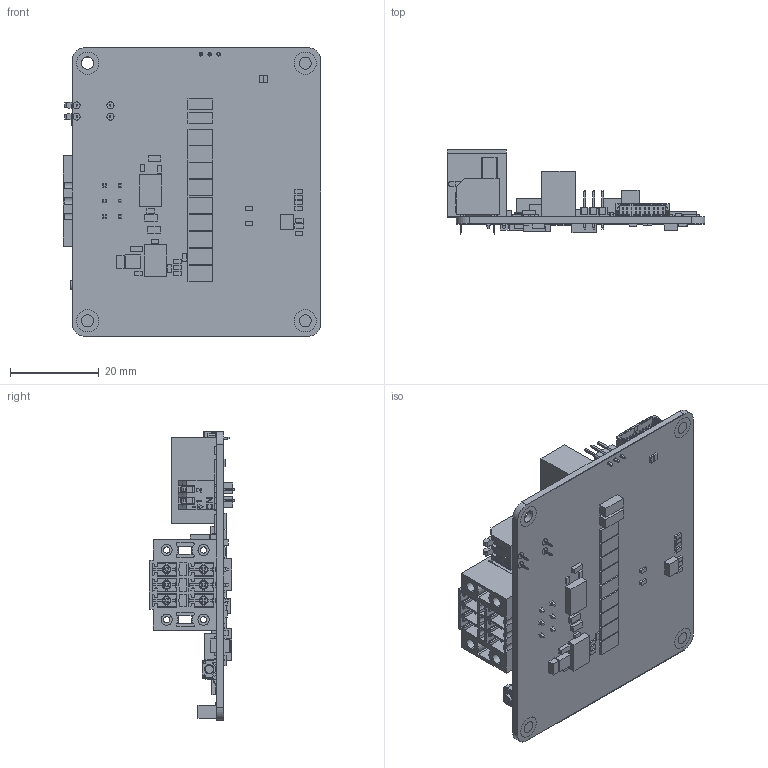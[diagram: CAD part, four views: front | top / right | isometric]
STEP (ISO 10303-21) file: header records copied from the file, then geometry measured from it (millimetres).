
FILE_DESCRIPTION((''),'2;1');
FILE_NAME('00-UP-CANBUS_ASM','2023-04-20T',('VinceHsu'),(''),'PRO/ENGINEER BY PARAMETRIC TECHNOLOGY CORPORATION, 2016010','PRO/ENGINEER BY PARAMETRIC TECHNOLOGY CORPORATION, 2016010','');
FILE_SCHEMA(('AUTOMOTIVE_DESIGN { 1 0 10303 214 1 1 1 1 }'));
Products named in the file (14): UP-CANBUS-PCB; UP-CANBUS-DXF-TOP-20230410-A01; UP-CANBUS-DXF-BOT-20230410-A01; UP-CNCR_A01-230410; 1655X00031; 1601000990; 1655901000; 165300310G_1; 165300310G_2; 165300310G_JUMPER_ASM; 1655906033_WAFER; DINKLE_0221-3506L_1; 1600X00006; 00-UP-CANBUS_ASM
Assembly tree (15 placements, depth 3):
  00-UP-CANBUS_ASM
    UP-CANBUS-PCB
    UP-CANBUS-DXF-TOP-20230410-A01
    UP-CANBUS-DXF-BOT-20230410-A01
    UP-CNCR_A01-230410
    1655X00031
    1601000990
    1655901000
    165300310G_JUMPER_ASM
      165300310G_1  x3
      165300310G_2
    1655906033_WAFER
    DINKLE_0221-3506L_1
    1600X00006
Bounding box: 58 x 19.2 x 65 mm (x, y, z)
Volume: 17392 mm3; surface area: 23233.3 mm2
Topology: 16 solids, 201 shells, 3116 faces, 12845 edges, 11913 vertices
Faces by surface type: plane 2488, cylinder 549, cone 61, torus 18
Entity records: 152608 total; most frequent: CARTESIAN_POINT 23969, DIRECTION 20963, ORIENTED_EDGE 16984, VECTOR 10447, LINE 10447, EDGE_CURVE 9109, PRESENTATION_STYLE_ASSIGNMENT 7568, STYLED_ITEM 7500
